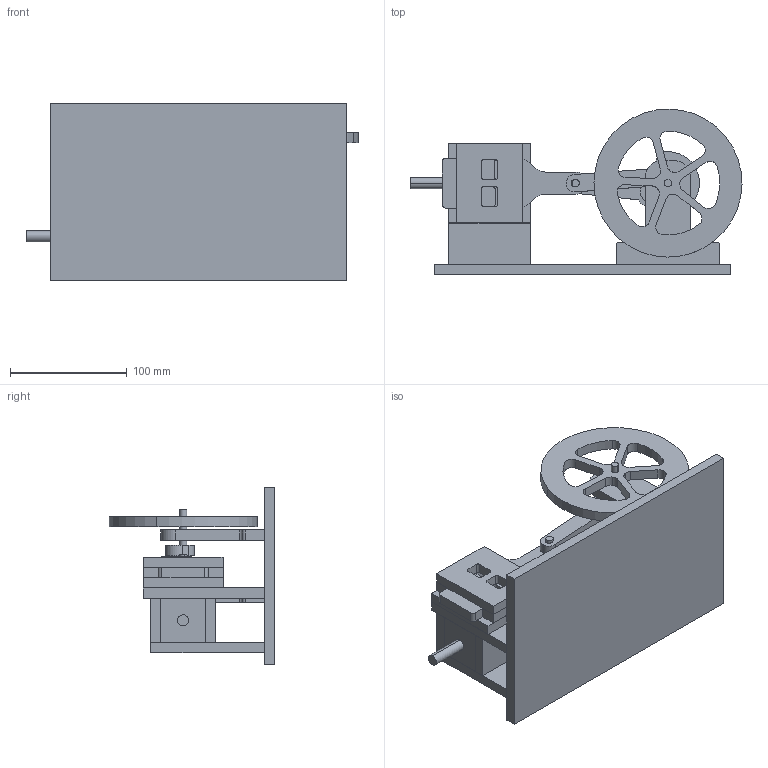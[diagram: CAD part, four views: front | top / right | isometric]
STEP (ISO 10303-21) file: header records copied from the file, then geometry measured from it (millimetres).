
FILE_DESCRIPTION (( 'STEP AP214' ), '1' );
FILE_NAME ('Air_Engine_CKC2.STEP', '2015-04-17T00:05:28', ( '' ), ( '' ), 'SwSTEP 2.0', 'SolidWorks 2012', '' );
FILE_SCHEMA (( 'AUTOMOTIVE_DESIGN' ));
Length unit declared in the file: inch
Products named in the file (22): 250_rod_1090; Crank; 250x625x195_bearing; Rod_part1; Piston_375; 6x10_base; Air_Engine_CKC2; 250_rod_800; Crank_Support; 1500x2750x345; Valve_rod; 375_rod_6in; 250_rod_5in; Front; Flywheel_250; Valve_io; Valve_rail; back; Rod_part2; Valve_crank; Valve_back; Valve_gate
Assembly tree (32 placements, depth 2):
  Air_Engine_CKC2
    6x10_base
    Piston_375  x3
    375_rod_6in
    Flywheel_250
    1500x2750x345  x2
    back
    Crank_Support  x2
    Rod_part1
    Rod_part2  x2
    250x625x195_bearing  x4
    Crank
    250_rod_5in  x2
    Front
    Valve_back
    Valve_rail  x2
    Valve_gate
    Valve_io
    Valve_rod
    250_rod_800
    250_rod_1090
    Valve_crank  x2
Bounding box: 284.77 x 142.11 x 152.4 mm (x, y, z)
Volume: 848861.8 mm3; surface area: 265374.2 mm2
Topology: 32 solids, 32 shells, 536 faces, 1298 edges, 844 vertices
Faces by surface type: plane 248, cylinder 224, cone 64
Entity records: 12302 total; most frequent: DIRECTION 2061, CARTESIAN_POINT 1928, ORIENTED_EDGE 1846, EDGE_CURVE 923, AXIS2_PLACEMENT_3D 743, VERTEX_POINT 610, LINE 575, VECTOR 575
